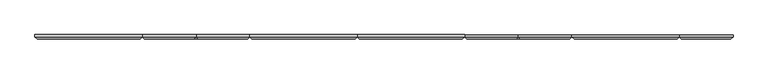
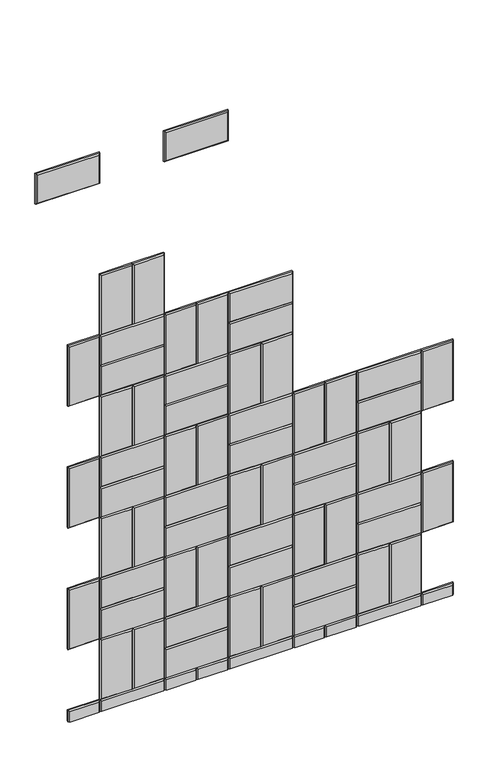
"""IFC4 building model written with IfcOpenShell, lengths in millimetres: proxy geometry, Wall_Wisteria 3.3dm."""

from ifc_helpers import new_model, si_unit, origin, place, context, project, spatial, faceted_brep, source, transform, mapped, element, save


def generic_models_1283f7ee(model_context):
    return source(origin(), model_context, "Body", "Brep", [
        faceted_brep([(0.2096042, 12.0, 2800.0003711), (305.0096042, 12.0, 2800.0003711), (305.0096042, 12.0, 2647.6003711), (0.2096042, 12.0, 2647.6003711), (0.2096042, 6.0, 2800.0003711), (0.2096042, 6.0, 2647.6003711), (305.0096042, 6.0, 2647.6003711), (305.0096042, 6.0, 2800.0003711), (299.0096042, 0.0, 2653.6003711), (299.0096042, 0.0, 2794.0003711), (6.2096042, 0.0, 2794.0003711), (6.2096042, 0.0, 2653.6003711)], [[[0, 1, 2, 3]], [[4, 0, 3, 5]], [[5, 3, 2, 6]], [[6, 2, 1, 7]], [[7, 1, 0, 4]], [[8, 9, 10, 11]], [[4, 5, 11, 10]], [[5, 6, 8, 11]], [[6, 7, 9, 8]], [[7, 4, 10, 9]]]),
        faceted_brep([(609.8092105, 12.0, 2800.0), (914.6092105, 12.0, 2800.0), (914.6092105, 12.0, 2647.6), (609.8092105, 12.0, 2647.6), (609.8092105, 6.0, 2800.0), (609.8092105, 6.0, 2647.6), (914.6092105, 6.0, 2647.6), (914.6092105, 6.0, 2800.0), (908.6092105, 0.0, 2653.6), (908.6092105, 0.0, 2794.0), (615.8092105, 0.0, 2794.0), (615.8092105, 0.0, 2653.6)], [[[0, 1, 2, 3]], [[4, 0, 3, 5]], [[5, 3, 2, 6]], [[6, 2, 1, 7]], [[7, 1, 0, 4]], [[8, 9, 10, 11]], [[4, 5, 11, 10]], [[5, 6, 8, 11]], [[6, 7, 9, 8]], [[7, 4, 10, 9]]]),
        faceted_brep([(152.6096042, 12.0, 0.0), (152.6096042, 12.0, 56.8003711), (305.0096042, 12.0, 56.8003711), (305.0096042, 12.0, 0.0), (305.0096042, 6.0, 0.0), (305.0096042, 6.0, 56.8003711), (152.6096042, 6.0, 56.8003711), (152.6096042, 6.0, 0.0), (158.6096042, 0.0, 0.0), (299.0096042, 0.0, 0.0), (299.0096042, 0.0, 50.8003711), (158.6096042, 0.0, 50.8003711)], [[[0, 1, 2, 3]], [[4, 3, 2, 5]], [[5, 2, 1, 6]], [[0, 7, 6, 1]], [[8, 9, 10, 11]], [[9, 4, 5, 10]], [[5, 6, 11, 10]], [[7, 8, 11, 6]], [[0, 3, 4, 9, 8, 7]]]),
        faceted_brep([(305.0092105, 12.0, 0.0), (305.0092105, 12.0, 56.8), (609.8092105, 12.0, 56.8), (609.8092105, 12.0, 0.0), (305.0092105, 6.0, 0.0), (305.0092105, 6.0, 56.8), (609.8092105, 6.0, 0.0), (609.8092105, 6.0, 56.8), (311.0092105, 0.0, 0.0), (603.8092105, 0.0, 0.0), (603.8092105, 0.0, 50.8), (311.0092105, 0.0, 50.8)], [[[0, 1, 2, 3]], [[0, 4, 5, 1]], [[6, 3, 2, 7]], [[7, 2, 1, 5]], [[8, 9, 10, 11]], [[4, 8, 11, 5]], [[9, 6, 7, 10]], [[7, 5, 11, 10]], [[0, 3, 6, 9, 8, 4]]]),
        faceted_brep([(914.6088167, 12.0, 0.0), (914.6088167, 12.0, 56.7996289), (1219.4088167, 12.0, 56.7996289), (1219.4088167, 12.0, 0.0), (914.6088167, 6.0, 0.0), (914.6088167, 6.0, 56.7996289), (1219.4088167, 6.0, 0.0), (1219.4088167, 6.0, 56.7996289), (920.6088167, 0.0, 0.0), (1213.4088167, 0.0, 0.0), (1213.4088167, 0.0, 50.7996289), (920.6088167, 0.0, 50.7996289)], [[[0, 1, 2, 3]], [[0, 4, 5, 1]], [[6, 3, 2, 7]], [[7, 2, 1, 5]], [[8, 9, 10, 11]], [[4, 8, 11, 5]], [[9, 6, 7, 10]], [[7, 5, 11, 10]], [[0, 3, 6, 9, 8, 4]]]),
        faceted_brep([(762.2092105, 12.0, 0.0), (762.2092105, 12.0, 56.8), (914.6092105, 12.0, 56.8), (914.6092105, 12.0, 0.0), (914.6092105, 6.0, 0.0), (914.6092105, 6.0, 56.8), (762.2092105, 6.0, 56.8), (762.2092105, 6.0, 0.0), (768.2092105, 0.0, 0.0), (908.6092105, 0.0, 0.0), (908.6092105, 0.0, 50.8), (768.2092105, 0.0, 50.8)], [[[0, 1, 2, 3]], [[4, 3, 2, 5]], [[5, 2, 1, 6]], [[0, 7, 6, 1]], [[8, 9, 10, 11]], [[9, 4, 5, 10]], [[5, 6, 11, 10]], [[7, 8, 11, 6]], [[0, 3, 4, 9, 8, 7]]]),
        faceted_brep([(609.8092105, 12.0, 0.0), (609.8092105, 12.0, 56.8), (762.2092105, 12.0, 56.8), (762.2092105, 12.0, 0.0), (762.2092105, 6.0, 0.0), (762.2092105, 6.0, 56.8), (609.8092105, 6.0, 56.8), (609.8092105, 6.0, 0.0), (615.8092105, 0.0, 0.0), (756.2092105, 0.0, 0.0), (756.2092105, 0.0, 50.8), (615.8092105, 0.0, 50.8)], [[[0, 1, 2, 3]], [[4, 3, 2, 5]], [[5, 2, 1, 6]], [[0, 7, 6, 1]], [[8, 9, 10, 11]], [[9, 4, 5, 10]], [[5, 6, 11, 10]], [[7, 8, 11, 6]], [[0, 3, 4, 9, 8, 7]]]),
        faceted_brep([(1524.208423, 12.0, 0.0), (1524.208423, 12.0, 56.7992578), (1829.008423, 12.0, 56.7992578), (1829.008423, 12.0, 0.0), (1524.208423, 6.0, 0.0), (1524.208423, 6.0, 56.7992578), (1829.008423, 6.0, 0.0), (1829.008423, 6.0, 56.7992578), (1530.208423, 0.0, 0.0), (1823.008423, 0.0, 0.0), (1823.008423, 0.0, 50.7992578), (1530.208423, 0.0, 50.7992578)], [[[0, 1, 2, 3]], [[0, 4, 5, 1]], [[6, 3, 2, 7]], [[7, 2, 1, 5]], [[8, 9, 10, 11]], [[4, 8, 11, 5]], [[9, 6, 7, 10]], [[7, 5, 11, 10]], [[0, 3, 6, 9, 8, 4]]]),
        faceted_brep([(1371.8088167, 12.0, 0.0), (1371.8088167, 12.0, 56.7996289), (1524.2088167, 12.0, 56.7996289), (1524.2088167, 12.0, 0.0), (1524.2088167, 6.0, 0.0), (1524.2088167, 6.0, 56.7996289), (1371.8088167, 6.0, 56.7996289), (1371.8088167, 6.0, 0.0), (1377.8088167, 0.0, 0.0), (1518.2088167, 0.0, 0.0), (1518.2088167, 0.0, 50.7996289), (1377.8088167, 0.0, 50.7996289)], [[[0, 1, 2, 3]], [[4, 3, 2, 5]], [[5, 2, 1, 6]], [[0, 7, 6, 1]], [[8, 9, 10, 11]], [[9, 4, 5, 10]], [[5, 6, 11, 10]], [[7, 8, 11, 6]], [[0, 3, 4, 9, 8, 7]]]),
        faceted_brep([(1219.4088167, 12.0, 0.0), (1219.4088167, 12.0, 56.7996289), (1371.8088167, 12.0, 56.7996289), (1371.8088167, 12.0, 0.0), (1371.8088167, 6.0, 0.0), (1371.8088167, 6.0, 56.7996289), (1219.4088167, 6.0, 56.7996289), (1219.4088167, 6.0, 0.0), (1225.4088167, 0.0, 0.0), (1365.8088167, 0.0, 0.0), (1365.8088167, 0.0, 50.7996289), (1225.4088167, 0.0, 50.7996289)], [[[0, 1, 2, 3]], [[4, 3, 2, 5]], [[5, 2, 1, 6]], [[0, 7, 6, 1]], [[8, 9, 10, 11]], [[9, 4, 5, 10]], [[5, 6, 11, 10]], [[7, 8, 11, 6]], [[0, 3, 4, 9, 8, 7]]]),
        faceted_brep([(1829.008423, 12.0, 0.0), (1829.008423, 12.0, 56.7992578), (1981.408423, 12.0, 56.7992578), (1981.408423, 12.0, 0.0), (1981.408423, 6.0, 0.0), (1981.408423, 6.0, 56.7992578), (1829.008423, 6.0, 56.7992578), (1829.008423, 6.0, 0.0), (1835.008423, 0.0, 0.0), (1975.408423, 0.0, 0.0), (1975.408423, 0.0, 50.7992578), (1835.008423, 0.0, 50.7992578)], [[[0, 1, 2, 3]], [[4, 3, 2, 5]], [[5, 2, 1, 6]], [[0, 7, 6, 1]], [[8, 9, 10, 11]], [[9, 4, 5, 10]], [[5, 6, 11, 10]], [[7, 8, 11, 6]], [[0, 3, 4, 9, 8, 7]]]),
        faceted_brep([(305.0096042, 12.0, 56.8003711), (305.0096042, 12.0, 361.6003711), (457.4096042, 12.0, 361.6003711), (457.4096042, 12.0, 56.8003711), (305.0096042, 6.0, 56.8003711), (457.4096042, 6.0, 56.8003711), (457.4096042, 6.0, 361.6003711), (305.0096042, 6.0, 361.6003711), (451.4096042, 0.0, 355.6003711), (311.0096042, 0.0, 355.6003711), (311.0096042, 0.0, 62.8003711), (451.4096042, 0.0, 62.8003711)], [[[0, 1, 2, 3]], [[4, 0, 3, 5]], [[5, 3, 2, 6]], [[6, 2, 1, 7]], [[7, 1, 0, 4]], [[8, 9, 10, 11]], [[4, 5, 11, 10]], [[5, 6, 8, 11]], [[6, 7, 9, 8]], [[7, 4, 10, 9]]]),
        faceted_brep([(457.4096042, 12.0, 56.8003711), (457.4096042, 12.0, 361.6003711), (609.8096042, 12.0, 361.6003711), (609.8096042, 12.0, 56.8003711), (457.4096042, 6.0, 56.8003711), (609.8096042, 6.0, 56.8003711), (609.8096042, 6.0, 361.6003711), (457.4096042, 6.0, 361.6003711), (603.8096042, 0.0, 355.6003711), (463.4096042, 0.0, 355.6003711), (463.4096042, 0.0, 62.8003711), (603.8096042, 0.0, 62.8003711)], [[[0, 1, 2, 3]], [[4, 0, 3, 5]], [[5, 3, 2, 6]], [[6, 2, 1, 7]], [[7, 1, 0, 4]], [[8, 9, 10, 11]], [[4, 5, 11, 10]], [[5, 6, 8, 11]], [[6, 7, 9, 8]], [[7, 4, 10, 9]]]),
        faceted_brep([(609.8092105, 12.0, 209.2), (914.6092105, 12.0, 209.2), (914.6092105, 12.0, 56.8), (609.8092105, 12.0, 56.8), (609.8092105, 6.0, 209.2), (609.8092105, 6.0, 56.8), (914.6092105, 6.0, 56.8), (914.6092105, 6.0, 209.2), (908.6092105, 0.0, 62.8), (908.6092105, 0.0, 203.2), (615.8092105, 0.0, 203.2), (615.8092105, 0.0, 62.8)], [[[0, 1, 2, 3]], [[4, 0, 3, 5]], [[5, 3, 2, 6]], [[6, 2, 1, 7]], [[7, 1, 0, 4]], [[8, 9, 10, 11]], [[4, 5, 11, 10]], [[5, 6, 8, 11]], [[6, 7, 9, 8]], [[7, 4, 10, 9]]]),
        faceted_brep([(609.8092105, 12.0, 361.6), (914.6092105, 12.0, 361.6), (914.6092105, 12.0, 209.2), (609.8092105, 12.0, 209.2), (609.8092105, 6.0, 361.6), (609.8092105, 6.0, 209.2), (914.6092105, 6.0, 209.2), (914.6092105, 6.0, 361.6), (908.6092105, 0.0, 215.2), (908.6092105, 0.0, 355.6), (615.8092105, 0.0, 355.6), (615.8092105, 0.0, 215.2)], [[[0, 1, 2, 3]], [[4, 0, 3, 5]], [[5, 3, 2, 6]], [[6, 2, 1, 7]], [[7, 1, 0, 4]], [[8, 9, 10, 11]], [[4, 5, 11, 10]], [[5, 6, 8, 11]], [[6, 7, 9, 8]], [[7, 4, 10, 9]]]),
        faceted_brep([(1219.4088167, 12.0, 361.5996289), (1524.2088167, 12.0, 361.5996289), (1524.2088167, 12.0, 209.1996289), (1219.4088167, 12.0, 209.1996289), (1219.4088167, 6.0, 361.5996289), (1219.4088167, 6.0, 209.1996289), (1524.2088167, 6.0, 209.1996289), (1524.2088167, 6.0, 361.5996289), (1518.2088167, 0.0, 215.1996289), (1518.2088167, 0.0, 355.5996289), (1225.4088167, 0.0, 355.5996289), (1225.4088167, 0.0, 215.1996289)], [[[0, 1, 2, 3]], [[4, 0, 3, 5]], [[5, 3, 2, 6]], [[6, 2, 1, 7]], [[7, 1, 0, 4]], [[8, 9, 10, 11]], [[4, 5, 11, 10]], [[5, 6, 8, 11]], [[6, 7, 9, 8]], [[7, 4, 10, 9]]]),
        faceted_brep([(1219.4088167, 12.0, 209.1996289), (1524.2088167, 12.0, 209.1996289), (1524.2088167, 12.0, 56.7996289), (1219.4088167, 12.0, 56.7996289), (1219.4088167, 6.0, 209.1996289), (1219.4088167, 6.0, 56.7996289), (1524.2088167, 6.0, 56.7996289), (1524.2088167, 6.0, 209.1996289), (1518.2088167, 0.0, 62.7996289), (1518.2088167, 0.0, 203.1996289), (1225.4088167, 0.0, 203.1996289), (1225.4088167, 0.0, 62.7996289)], [[[0, 1, 2, 3]], [[4, 0, 3, 5]], [[5, 3, 2, 6]], [[6, 2, 1, 7]], [[7, 1, 0, 4]], [[8, 9, 10, 11]], [[4, 5, 11, 10]], [[5, 6, 8, 11]], [[6, 7, 9, 8]], [[7, 4, 10, 9]]]),
        faceted_brep([(1676.6088167, 12.0, 56.7996289), (1676.6088167, 12.0, 361.5996289), (1829.0088167, 12.0, 361.5996289), (1829.0088167, 12.0, 56.7996289), (1676.6088167, 6.0, 56.7996289), (1829.0088167, 6.0, 56.7996289), (1829.0088167, 6.0, 361.5996289), (1676.6088167, 6.0, 361.5996289), (1823.0088167, 0.0, 355.5996289), (1682.6088167, 0.0, 355.5996289), (1682.6088167, 0.0, 62.7996289), (1823.0088167, 0.0, 62.7996289)], [[[0, 1, 2, 3]], [[4, 0, 3, 5]], [[5, 3, 2, 6]], [[6, 2, 1, 7]], [[7, 1, 0, 4]], [[8, 9, 10, 11]], [[4, 5, 11, 10]], [[5, 6, 8, 11]], [[6, 7, 9, 8]], [[7, 4, 10, 9]]]),
        faceted_brep([(1524.2088167, 12.0, 56.7996289), (1524.2088167, 12.0, 361.5996289), (1676.6088167, 12.0, 361.5996289), (1676.6088167, 12.0, 56.7996289), (1524.2088167, 6.0, 56.7996289), (1676.6088167, 6.0, 56.7996289), (1676.6088167, 6.0, 361.5996289), (1524.2088167, 6.0, 361.5996289), (1670.6088167, 0.0, 355.5996289), (1530.2088167, 0.0, 355.5996289), (1530.2088167, 0.0, 62.7996289), (1670.6088167, 0.0, 62.7996289)], [[[0, 1, 2, 3]], [[4, 0, 3, 5]], [[5, 3, 2, 6]], [[6, 2, 1, 7]], [[7, 1, 0, 4]], [[8, 9, 10, 11]], [[4, 5, 11, 10]], [[5, 6, 8, 11]], [[6, 7, 9, 8]], [[7, 4, 10, 9]]]),
        faceted_brep([(1067.0092105, 12.0, 56.8), (1067.0092105, 12.0, 361.6), (1219.4092105, 12.0, 361.6), (1219.4092105, 12.0, 56.8), (1067.0092105, 6.0, 56.8), (1219.4092105, 6.0, 56.8), (1219.4092105, 6.0, 361.6), (1067.0092105, 6.0, 361.6), (1213.4092105, 0.0, 355.6), (1073.0092105, 0.0, 355.6), (1073.0092105, 0.0, 62.8), (1213.4092105, 0.0, 62.8)], [[[0, 1, 2, 3]], [[4, 0, 3, 5]], [[5, 3, 2, 6]], [[6, 2, 1, 7]], [[7, 1, 0, 4]], [[8, 9, 10, 11]], [[4, 5, 11, 10]], [[5, 6, 8, 11]], [[6, 7, 9, 8]], [[7, 4, 10, 9]]]),
        faceted_brep([(914.6092105, 12.0, 56.8), (914.6092105, 12.0, 361.6), (1067.0092105, 12.0, 361.6), (1067.0092105, 12.0, 56.8), (914.6092105, 6.0, 56.8), (1067.0092105, 6.0, 56.8), (1067.0092105, 6.0, 361.6), (914.6092105, 6.0, 361.6), (1061.0092105, 0.0, 355.6), (920.6092105, 0.0, 355.6), (920.6092105, 0.0, 62.8), (1061.0092105, 0.0, 62.8)], [[[0, 1, 2, 3]], [[4, 0, 3, 5]], [[5, 3, 2, 6]], [[6, 2, 1, 7]], [[7, 1, 0, 4]], [[8, 9, 10, 11]], [[4, 5, 11, 10]], [[5, 6, 8, 11]], [[6, 7, 9, 8]], [[7, 4, 10, 9]]]),
        faceted_brep([(152.6096042, 12.0, 361.6003711), (152.6096042, 12.0, 666.4003711), (305.0096042, 12.0, 666.4003711), (305.0096042, 12.0, 361.6003711), (152.6096042, 6.0, 361.6003711), (305.0096042, 6.0, 361.6003711), (305.0096042, 6.0, 666.4003711), (152.6096042, 6.0, 666.4003711), (299.0096042, 0.0, 660.4003711), (158.6096042, 0.0, 660.4003711), (158.6096042, 0.0, 367.6003711), (299.0096042, 0.0, 367.6003711)], [[[0, 1, 2, 3]], [[4, 0, 3, 5]], [[5, 3, 2, 6]], [[6, 2, 1, 7]], [[7, 1, 0, 4]], [[8, 9, 10, 11]], [[4, 5, 11, 10]], [[5, 6, 8, 11]], [[6, 7, 9, 8]], [[7, 4, 10, 9]]]),
        faceted_brep([(305.0092105, 12.0, 514.0), (609.8092105, 12.0, 514.0), (609.8092105, 12.0, 361.6), (305.0092105, 12.0, 361.6), (305.0092105, 6.0, 514.0), (305.0092105, 6.0, 361.6), (609.8092105, 6.0, 361.6), (609.8092105, 6.0, 514.0), (603.8092105, 0.0, 367.6), (603.8092105, 0.0, 508.0), (311.0092105, 0.0, 508.0), (311.0092105, 0.0, 367.6)], [[[0, 1, 2, 3]], [[4, 0, 3, 5]], [[5, 3, 2, 6]], [[6, 2, 1, 7]], [[7, 1, 0, 4]], [[8, 9, 10, 11]], [[4, 5, 11, 10]], [[5, 6, 8, 11]], [[6, 7, 9, 8]], [[7, 4, 10, 9]]]),
        faceted_brep([(305.0092105, 12.0, 666.4), (609.8092105, 12.0, 666.4), (609.8092105, 12.0, 514.0), (305.0092105, 12.0, 514.0), (305.0092105, 6.0, 666.4), (305.0092105, 6.0, 514.0), (609.8092105, 6.0, 514.0), (609.8092105, 6.0, 666.4), (603.8092105, 0.0, 520.0), (603.8092105, 0.0, 660.4), (311.0092105, 0.0, 660.4), (311.0092105, 0.0, 520.0)], [[[0, 1, 2, 3]], [[4, 0, 3, 5]], [[5, 3, 2, 6]], [[6, 2, 1, 7]], [[7, 1, 0, 4]], [[8, 9, 10, 11]], [[4, 5, 11, 10]], [[5, 6, 8, 11]], [[6, 7, 9, 8]], [[7, 4, 10, 9]]]),
        faceted_brep([(914.6088167, 12.0, 666.3996289), (1219.4088167, 12.0, 666.3996289), (1219.4088167, 12.0, 513.9996289), (914.6088167, 12.0, 513.9996289), (914.6088167, 6.0, 666.3996289), (914.6088167, 6.0, 513.9996289), (1219.4088167, 6.0, 513.9996289), (1219.4088167, 6.0, 666.3996289), (1213.4088167, 0.0, 519.9996289), (1213.4088167, 0.0, 660.3996289), (920.6088167, 0.0, 660.3996289), (920.6088167, 0.0, 519.9996289)], [[[0, 1, 2, 3]], [[4, 0, 3, 5]], [[5, 3, 2, 6]], [[6, 2, 1, 7]], [[7, 1, 0, 4]], [[8, 9, 10, 11]], [[4, 5, 11, 10]], [[5, 6, 8, 11]], [[6, 7, 9, 8]], [[7, 4, 10, 9]]]),
        faceted_brep([(914.6088167, 12.0, 513.9996289), (1219.4088167, 12.0, 513.9996289), (1219.4088167, 12.0, 361.5996289), (914.6088167, 12.0, 361.5996289), (914.6088167, 6.0, 513.9996289), (914.6088167, 6.0, 361.5996289), (1219.4088167, 6.0, 361.5996289), (1219.4088167, 6.0, 513.9996289), (1213.4088167, 0.0, 367.5996289), (1213.4088167, 0.0, 507.9996289), (920.6088167, 0.0, 507.9996289), (920.6088167, 0.0, 367.5996289)], [[[0, 1, 2, 3]], [[4, 0, 3, 5]], [[5, 3, 2, 6]], [[6, 2, 1, 7]], [[7, 1, 0, 4]], [[8, 9, 10, 11]], [[4, 5, 11, 10]], [[5, 6, 8, 11]], [[6, 7, 9, 8]], [[7, 4, 10, 9]]]),
        faceted_brep([(762.2092105, 12.0, 361.6), (762.2092105, 12.0, 666.4), (914.6092105, 12.0, 666.4), (914.6092105, 12.0, 361.6), (762.2092105, 6.0, 361.6), (914.6092105, 6.0, 361.6), (914.6092105, 6.0, 666.4), (762.2092105, 6.0, 666.4), (908.6092105, 0.0, 660.4), (768.2092105, 0.0, 660.4), (768.2092105, 0.0, 367.6), (908.6092105, 0.0, 367.6)], [[[0, 1, 2, 3]], [[4, 0, 3, 5]], [[5, 3, 2, 6]], [[6, 2, 1, 7]], [[7, 1, 0, 4]], [[8, 9, 10, 11]], [[4, 5, 11, 10]], [[5, 6, 8, 11]], [[6, 7, 9, 8]], [[7, 4, 10, 9]]]),
        faceted_brep([(609.8092105, 12.0, 361.6), (609.8092105, 12.0, 666.4), (762.2092105, 12.0, 666.4), (762.2092105, 12.0, 361.6), (609.8092105, 6.0, 361.6), (762.2092105, 6.0, 361.6), (762.2092105, 6.0, 666.4), (609.8092105, 6.0, 666.4), (756.2092105, 0.0, 660.4), (615.8092105, 0.0, 660.4), (615.8092105, 0.0, 367.6), (756.2092105, 0.0, 367.6)], [[[0, 1, 2, 3]], [[4, 0, 3, 5]], [[5, 3, 2, 6]], [[6, 2, 1, 7]], [[7, 1, 0, 4]], [[8, 9, 10, 11]], [[4, 5, 11, 10]], [[5, 6, 8, 11]], [[6, 7, 9, 8]], [[7, 4, 10, 9]]]),
        faceted_brep([(1524.208423, 12.0, 666.3992578), (1829.008423, 12.0, 666.3992578), (1829.008423, 12.0, 513.9992578), (1524.208423, 12.0, 513.9992578), (1524.208423, 6.0, 666.3992578), (1524.208423, 6.0, 513.9992578), (1829.008423, 6.0, 513.9992578), (1829.008423, 6.0, 666.3992578), (1823.008423, 0.0, 519.9992578), (1823.008423, 0.0, 660.3992578), (1530.208423, 0.0, 660.3992578), (1530.208423, 0.0, 519.9992578)], [[[0, 1, 2, 3]], [[4, 0, 3, 5]], [[5, 3, 2, 6]], [[6, 2, 1, 7]], [[7, 1, 0, 4]], [[8, 9, 10, 11]], [[4, 5, 11, 10]], [[5, 6, 8, 11]], [[6, 7, 9, 8]], [[7, 4, 10, 9]]]),
        faceted_brep([(1524.208423, 12.0, 513.9992578), (1829.008423, 12.0, 513.9992578), (1829.008423, 12.0, 361.5992578), (1524.208423, 12.0, 361.5992578), (1524.208423, 6.0, 513.9992578), (1524.208423, 6.0, 361.5992578), (1829.008423, 6.0, 361.5992578), (1829.008423, 6.0, 513.9992578), (1823.008423, 0.0, 367.5992578), (1823.008423, 0.0, 507.9992578), (1530.208423, 0.0, 507.9992578), (1530.208423, 0.0, 367.5992578)], [[[0, 1, 2, 3]], [[4, 0, 3, 5]], [[5, 3, 2, 6]], [[6, 2, 1, 7]], [[7, 1, 0, 4]], [[8, 9, 10, 11]], [[4, 5, 11, 10]], [[5, 6, 8, 11]], [[6, 7, 9, 8]], [[7, 4, 10, 9]]]),
        faceted_brep([(1371.8088167, 12.0, 361.5996289), (1371.8088167, 12.0, 666.3996289), (1524.2088167, 12.0, 666.3996289), (1524.2088167, 12.0, 361.5996289), (1371.8088167, 6.0, 361.5996289), (1524.2088167, 6.0, 361.5996289), (1524.2088167, 6.0, 666.3996289), (1371.8088167, 6.0, 666.3996289), (1518.2088167, 0.0, 660.3996289), (1377.8088167, 0.0, 660.3996289), (1377.8088167, 0.0, 367.5996289), (1518.2088167, 0.0, 367.5996289)], [[[0, 1, 2, 3]], [[4, 0, 3, 5]], [[5, 3, 2, 6]], [[6, 2, 1, 7]], [[7, 1, 0, 4]], [[8, 9, 10, 11]], [[4, 5, 11, 10]], [[5, 6, 8, 11]], [[6, 7, 9, 8]], [[7, 4, 10, 9]]]),
        faceted_brep([(1219.4088167, 12.0, 361.5996289), (1219.4088167, 12.0, 666.3996289), (1371.8088167, 12.0, 666.3996289), (1371.8088167, 12.0, 361.5996289), (1219.4088167, 6.0, 361.5996289), (1371.8088167, 6.0, 361.5996289), (1371.8088167, 6.0, 666.3996289), (1219.4088167, 6.0, 666.3996289), (1365.8088167, 0.0, 660.3996289), (1225.4088167, 0.0, 660.3996289), (1225.4088167, 0.0, 367.5996289), (1365.8088167, 0.0, 367.5996289)], [[[0, 1, 2, 3]], [[4, 0, 3, 5]], [[5, 3, 2, 6]], [[6, 2, 1, 7]], [[7, 1, 0, 4]], [[8, 9, 10, 11]], [[4, 5, 11, 10]], [[5, 6, 8, 11]], [[6, 7, 9, 8]], [[7, 4, 10, 9]]]),
        faceted_brep([(1829.008423, 12.0, 361.5992578), (1829.008423, 12.0, 666.3992578), (1981.408423, 12.0, 666.3992578), (1981.408423, 12.0, 361.5992578), (1829.008423, 6.0, 361.5992578), (1981.408423, 6.0, 361.5992578), (1981.408423, 6.0, 666.3992578), (1829.008423, 6.0, 666.3992578), (1975.408423, 0.0, 660.3992578), (1835.008423, 0.0, 660.3992578), (1835.008423, 0.0, 367.5992578), (1975.408423, 0.0, 367.5992578)], [[[0, 1, 2, 3]], [[4, 0, 3, 5]], [[5, 3, 2, 6]], [[6, 2, 1, 7]], [[7, 1, 0, 4]], [[8, 9, 10, 11]], [[4, 5, 11, 10]], [[5, 6, 8, 11]], [[6, 7, 9, 8]], [[7, 4, 10, 9]]]),
        faceted_brep([(305.0096042, 12.0, 666.4003711), (305.0096042, 12.0, 971.2003711), (457.4096042, 12.0, 971.2003711), (457.4096042, 12.0, 666.4003711), (305.0096042, 6.0, 666.4003711), (457.4096042, 6.0, 666.4003711), (457.4096042, 6.0, 971.2003711), (305.0096042, 6.0, 971.2003711), (451.4096042, 0.0, 965.2003711), (311.0096042, 0.0, 965.2003711), (311.0096042, 0.0, 672.4003711), (451.4096042, 0.0, 672.4003711)], [[[0, 1, 2, 3]], [[4, 0, 3, 5]], [[5, 3, 2, 6]], [[6, 2, 1, 7]], [[7, 1, 0, 4]], [[8, 9, 10, 11]], [[4, 5, 11, 10]], [[5, 6, 8, 11]], [[6, 7, 9, 8]], [[7, 4, 10, 9]]]),
        faceted_brep([(457.4096042, 12.0, 666.4003711), (457.4096042, 12.0, 971.2003711), (609.8096042, 12.0, 971.2003711), (609.8096042, 12.0, 666.4003711), (457.4096042, 6.0, 666.4003711), (609.8096042, 6.0, 666.4003711), (609.8096042, 6.0, 971.2003711), (457.4096042, 6.0, 971.2003711), (603.8096042, 0.0, 965.2003711), (463.4096042, 0.0, 965.2003711), (463.4096042, 0.0, 672.4003711), (603.8096042, 0.0, 672.4003711)], [[[0, 1, 2, 3]], [[4, 0, 3, 5]], [[5, 3, 2, 6]], [[6, 2, 1, 7]], [[7, 1, 0, 4]], [[8, 9, 10, 11]], [[4, 5, 11, 10]], [[5, 6, 8, 11]], [[6, 7, 9, 8]], [[7, 4, 10, 9]]]),
        faceted_brep([(609.8092105, 12.0, 818.8), (914.6092105, 12.0, 818.8), (914.6092105, 12.0, 666.4), (609.8092105, 12.0, 666.4), (609.8092105, 6.0, 818.8), (609.8092105, 6.0, 666.4), (914.6092105, 6.0, 666.4), (914.6092105, 6.0, 818.8), (908.6092105, 0.0, 672.4), (908.6092105, 0.0, 812.8), (615.8092105, 0.0, 812.8), (615.8092105, 0.0, 672.4)], [[[0, 1, 2, 3]], [[4, 0, 3, 5]], [[5, 3, 2, 6]], [[6, 2, 1, 7]], [[7, 1, 0, 4]], [[8, 9, 10, 11]], [[4, 5, 11, 10]], [[5, 6, 8, 11]], [[6, 7, 9, 8]], [[7, 4, 10, 9]]]),
        faceted_brep([(609.8092105, 12.0, 971.2), (914.6092105, 12.0, 971.2), (914.6092105, 12.0, 818.8), (609.8092105, 12.0, 818.8), (609.8092105, 6.0, 971.2), (609.8092105, 6.0, 818.8), (914.6092105, 6.0, 818.8), (914.6092105, 6.0, 971.2), (908.6092105, 0.0, 824.8), (908.6092105, 0.0, 965.2), (615.8092105, 0.0, 965.2), (615.8092105, 0.0, 824.8)], [[[0, 1, 2, 3]], [[4, 0, 3, 5]], [[5, 3, 2, 6]], [[6, 2, 1, 7]], [[7, 1, 0, 4]], [[8, 9, 10, 11]], [[4, 5, 11, 10]], [[5, 6, 8, 11]], [[6, 7, 9, 8]], [[7, 4, 10, 9]]]),
        faceted_brep([(1219.4088167, 12.0, 971.1996289), (1524.2088167, 12.0, 971.1996289), (1524.2088167, 12.0, 818.7996289), (1219.4088167, 12.0, 818.7996289), (1219.4088167, 6.0, 971.1996289), (1219.4088167, 6.0, 818.7996289), (1524.2088167, 6.0, 818.7996289), (1524.2088167, 6.0, 971.1996289), (1518.2088167, 0.0, 824.7996289), (1518.2088167, 0.0, 965.1996289), (1225.4088167, 0.0, 965.1996289), (1225.4088167, 0.0, 824.7996289)], [[[0, 1, 2, 3]], [[4, 0, 3, 5]], [[5, 3, 2, 6]], [[6, 2, 1, 7]], [[7, 1, 0, 4]], [[8, 9, 10, 11]], [[4, 5, 11, 10]], [[5, 6, 8, 11]], [[6, 7, 9, 8]], [[7, 4, 10, 9]]]),
        faceted_brep([(1219.4088167, 12.0, 818.7996289), (1524.2088167, 12.0, 818.7996289), (1524.2088167, 12.0, 666.3996289), (1219.4088167, 12.0, 666.3996289), (1219.4088167, 6.0, 818.7996289), (1219.4088167, 6.0, 666.3996289), (1524.2088167, 6.0, 666.3996289), (1524.2088167, 6.0, 818.7996289), (1518.2088167, 0.0, 672.3996289), (1518.2088167, 0.0, 812.7996289), (1225.4088167, 0.0, 812.7996289), (1225.4088167, 0.0, 672.3996289)], [[[0, 1, 2, 3]], [[4, 0, 3, 5]], [[5, 3, 2, 6]], [[6, 2, 1, 7]], [[7, 1, 0, 4]], [[8, 9, 10, 11]], [[4, 5, 11, 10]], [[5, 6, 8, 11]], [[6, 7, 9, 8]], [[7, 4, 10, 9]]]),
        faceted_brep([(1676.6088167, 12.0, 666.3996289), (1676.6088167, 12.0, 971.1996289), (1829.0088167, 12.0, 971.1996289), (1829.0088167, 12.0, 666.3996289), (1676.6088167, 6.0, 666.3996289), (1829.0088167, 6.0, 666.3996289), (1829.0088167, 6.0, 971.1996289), (1676.6088167, 6.0, 971.1996289), (1823.0088167, 0.0, 965.1996289), (1682.6088167, 0.0, 965.1996289), (1682.6088167, 0.0, 672.3996289), (1823.0088167, 0.0, 672.3996289)], [[[0, 1, 2, 3]], [[4, 0, 3, 5]], [[5, 3, 2, 6]], [[6, 2, 1, 7]], [[7, 1, 0, 4]], [[8, 9, 10, 11]], [[4, 5, 11, 10]], [[5, 6, 8, 11]], [[6, 7, 9, 8]], [[7, 4, 10, 9]]]),
        faceted_brep([(1524.2088167, 12.0, 666.3996289), (1524.2088167, 12.0, 971.1996289), (1676.6088167, 12.0, 971.1996289), (1676.6088167, 12.0, 666.3996289), (1524.2088167, 6.0, 666.3996289), (1676.6088167, 6.0, 666.3996289), (1676.6088167, 6.0, 971.1996289), (1524.2088167, 6.0, 971.1996289), (1670.6088167, 0.0, 965.1996289), (1530.2088167, 0.0, 965.1996289), (1530.2088167, 0.0, 672.3996289), (1670.6088167, 0.0, 672.3996289)], [[[0, 1, 2, 3]], [[4, 0, 3, 5]], [[5, 3, 2, 6]], [[6, 2, 1, 7]], [[7, 1, 0, 4]], [[8, 9, 10, 11]], [[4, 5, 11, 10]], [[5, 6, 8, 11]], [[6, 7, 9, 8]], [[7, 4, 10, 9]]]),
        faceted_brep([(1067.0092105, 12.0, 666.4), (1067.0092105, 12.0, 971.2), (1219.4092105, 12.0, 971.2), (1219.4092105, 12.0, 666.4), (1067.0092105, 6.0, 666.4), (1219.4092105, 6.0, 666.4), (1219.4092105, 6.0, 971.2), (1067.0092105, 6.0, 971.2), (1213.4092105, 0.0, 965.2), (1073.0092105, 0.0, 965.2), (1073.0092105, 0.0, 672.4), (1213.4092105, 0.0, 672.4)], [[[0, 1, 2, 3]], [[4, 0, 3, 5]], [[5, 3, 2, 6]], [[6, 2, 1, 7]], [[7, 1, 0, 4]], [[8, 9, 10, 11]], [[4, 5, 11, 10]], [[5, 6, 8, 11]], [[6, 7, 9, 8]], [[7, 4, 10, 9]]]),
        faceted_brep([(914.6092105, 12.0, 666.4), (914.6092105, 12.0, 971.2), (1067.0092105, 12.0, 971.2), (1067.0092105, 12.0, 666.4), (914.6092105, 6.0, 666.4), (1067.0092105, 6.0, 666.4), (1067.0092105, 6.0, 971.2), (914.6092105, 6.0, 971.2), (1061.0092105, 0.0, 965.2), (920.6092105, 0.0, 965.2), (920.6092105, 0.0, 672.4), (1061.0092105, 0.0, 672.4)], [[[0, 1, 2, 3]], [[4, 0, 3, 5]], [[5, 3, 2, 6]], [[6, 2, 1, 7]], [[7, 1, 0, 4]], [[8, 9, 10, 11]], [[4, 5, 11, 10]], [[5, 6, 8, 11]], [[6, 7, 9, 8]], [[7, 4, 10, 9]]]),
        faceted_brep([(152.6096042, 12.0, 971.2003711), (152.6096042, 12.0, 1276.0003711), (305.0096042, 12.0, 1276.0003711), (305.0096042, 12.0, 971.2003711), (152.6096042, 6.0, 971.2003711), (305.0096042, 6.0, 971.2003711), (305.0096042, 6.0, 1276.0003711), (152.6096042, 6.0, 1276.0003711), (299.0096042, 0.0, 1270.0003711), (158.6096042, 0.0, 1270.0003711), (158.6096042, 0.0, 977.2003711), (299.0096042, 0.0, 977.2003711)], [[[0, 1, 2, 3]], [[4, 0, 3, 5]], [[5, 3, 2, 6]], [[6, 2, 1, 7]], [[7, 1, 0, 4]], [[8, 9, 10, 11]], [[4, 5, 11, 10]], [[5, 6, 8, 11]], [[6, 7, 9, 8]], [[7, 4, 10, 9]]]),
        faceted_brep([(305.0092105, 12.0, 1123.6), (609.8092105, 12.0, 1123.6), (609.8092105, 12.0, 971.2), (305.0092105, 12.0, 971.2), (305.0092105, 6.0, 1123.6), (305.0092105, 6.0, 971.2), (609.8092105, 6.0, 971.2), (609.8092105, 6.0, 1123.6), (603.8092105, 0.0, 977.2), (603.8092105, 0.0, 1117.6), (311.0092105, 0.0, 1117.6), (311.0092105, 0.0, 977.2)], [[[0, 1, 2, 3]], [[4, 0, 3, 5]], [[5, 3, 2, 6]], [[6, 2, 1, 7]], [[7, 1, 0, 4]], [[8, 9, 10, 11]], [[4, 5, 11, 10]], [[5, 6, 8, 11]], [[6, 7, 9, 8]], [[7, 4, 10, 9]]]),
        faceted_brep([(305.0092105, 12.0, 1276.0), (609.8092105, 12.0, 1276.0), (609.8092105, 12.0, 1123.6), (305.0092105, 12.0, 1123.6), (305.0092105, 6.0, 1276.0), (305.0092105, 6.0, 1123.6), (609.8092105, 6.0, 1123.6), (609.8092105, 6.0, 1276.0), (603.8092105, 0.0, 1129.6), (603.8092105, 0.0, 1270.0), (311.0092105, 0.0, 1270.0), (311.0092105, 0.0, 1129.6)], [[[0, 1, 2, 3]], [[4, 0, 3, 5]], [[5, 3, 2, 6]], [[6, 2, 1, 7]], [[7, 1, 0, 4]], [[8, 9, 10, 11]], [[4, 5, 11, 10]], [[5, 6, 8, 11]], [[6, 7, 9, 8]], [[7, 4, 10, 9]]]),
        faceted_brep([(914.6088167, 12.0, 1275.9996289), (1219.4088167, 12.0, 1275.9996289), (1219.4088167, 12.0, 1123.5996289), (914.6088167, 12.0, 1123.5996289), (914.6088167, 6.0, 1275.9996289), (914.6088167, 6.0, 1123.5996289), (1219.4088167, 6.0, 1123.5996289), (1219.4088167, 6.0, 1275.9996289), (1213.4088167, 0.0, 1129.5996289), (1213.4088167, 0.0, 1269.9996289), (920.6088167, 0.0, 1269.9996289), (920.6088167, 0.0, 1129.5996289)], [[[0, 1, 2, 3]], [[4, 0, 3, 5]], [[5, 3, 2, 6]], [[6, 2, 1, 7]], [[7, 1, 0, 4]], [[8, 9, 10, 11]], [[4, 5, 11, 10]], [[5, 6, 8, 11]], [[6, 7, 9, 8]], [[7, 4, 10, 9]]]),
        faceted_brep([(914.6088167, 12.0, 1123.5996289), (1219.4088167, 12.0, 1123.5996289), (1219.4088167, 12.0, 971.1996289), (914.6088167, 12.0, 971.1996289), (914.6088167, 6.0, 1123.5996289), (914.6088167, 6.0, 971.1996289), (1219.4088167, 6.0, 971.1996289), (1219.4088167, 6.0, 1123.5996289), (1213.4088167, 0.0, 977.1996289), (1213.4088167, 0.0, 1117.5996289), (920.6088167, 0.0, 1117.5996289), (920.6088167, 0.0, 977.1996289)], [[[0, 1, 2, 3]], [[4, 0, 3, 5]], [[5, 3, 2, 6]], [[6, 2, 1, 7]], [[7, 1, 0, 4]], [[8, 9, 10, 11]], [[4, 5, 11, 10]], [[5, 6, 8, 11]], [[6, 7, 9, 8]], [[7, 4, 10, 9]]]),
        faceted_brep([(762.2092105, 12.0, 971.2), (762.2092105, 12.0, 1276.0), (914.6092105, 12.0, 1276.0), (914.6092105, 12.0, 971.2), (762.2092105, 6.0, 971.2), (914.6092105, 6.0, 971.2), (914.6092105, 6.0, 1276.0), (762.2092105, 6.0, 1276.0), (908.6092105, 0.0, 1270.0), (768.2092105, 0.0, 1270.0), (768.2092105, 0.0, 977.2), (908.6092105, 0.0, 977.2)], [[[0, 1, 2, 3]], [[4, 0, 3, 5]], [[5, 3, 2, 6]], [[6, 2, 1, 7]], [[7, 1, 0, 4]], [[8, 9, 10, 11]], [[4, 5, 11, 10]], [[5, 6, 8, 11]], [[6, 7, 9, 8]], [[7, 4, 10, 9]]]),
        faceted_brep([(609.8092105, 12.0, 971.2), (609.8092105, 12.0, 1276.0), (762.2092105, 12.0, 1276.0), (762.2092105, 12.0, 971.2), (609.8092105, 6.0, 971.2), (762.2092105, 6.0, 971.2), (762.2092105, 6.0, 1276.0), (609.8092105, 6.0, 1276.0), (756.2092105, 0.0, 1270.0), (615.8092105, 0.0, 1270.0), (615.8092105, 0.0, 977.2), (756.2092105, 0.0, 977.2)], [[[0, 1, 2, 3]], [[4, 0, 3, 5]], [[5, 3, 2, 6]], [[6, 2, 1, 7]], [[7, 1, 0, 4]], [[8, 9, 10, 11]], [[4, 5, 11, 10]], [[5, 6, 8, 11]], [[6, 7, 9, 8]], [[7, 4, 10, 9]]]),
        faceted_brep([(1524.208423, 12.0, 1275.9992578), (1829.008423, 12.0, 1275.9992578), (1829.008423, 12.0, 1123.5992578), (1524.208423, 12.0, 1123.5992578), (1524.208423, 6.0, 1275.9992578), (1524.208423, 6.0, 1123.5992578), (1829.008423, 6.0, 1123.5992578), (1829.008423, 6.0, 1275.9992578), (1823.008423, 0.0, 1129.5992578), (1823.008423, 0.0, 1269.9992578), (1530.208423, 0.0, 1269.9992578), (1530.208423, 0.0, 1129.5992578)], [[[0, 1, 2, 3]], [[4, 0, 3, 5]], [[5, 3, 2, 6]], [[6, 2, 1, 7]], [[7, 1, 0, 4]], [[8, 9, 10, 11]], [[4, 5, 11, 10]], [[5, 6, 8, 11]], [[6, 7, 9, 8]], [[7, 4, 10, 9]]]),
        faceted_brep([(1524.208423, 12.0, 1123.5992578), (1829.008423, 12.0, 1123.5992578), (1829.008423, 12.0, 971.1992578), (1524.208423, 12.0, 971.1992578), (1524.208423, 6.0, 1123.5992578), (1524.208423, 6.0, 971.1992578), (1829.008423, 6.0, 971.1992578), (1829.008423, 6.0, 1123.5992578), (1823.008423, 0.0, 977.1992578), (1823.008423, 0.0, 1117.5992578), (1530.208423, 0.0, 1117.5992578), (1530.208423, 0.0, 977.1992578)], [[[0, 1, 2, 3]], [[4, 0, 3, 5]], [[5, 3, 2, 6]], [[6, 2, 1, 7]], [[7, 1, 0, 4]], [[8, 9, 10, 11]], [[4, 5, 11, 10]], [[5, 6, 8, 11]], [[6, 7, 9, 8]], [[7, 4, 10, 9]]]),
        faceted_brep([(1371.8088167, 12.0, 971.1996289), (1371.8088167, 12.0, 1275.9996289), (1524.2088167, 12.0, 1275.9996289), (1524.2088167, 12.0, 971.1996289), (1371.8088167, 6.0, 971.1996289), (1524.2088167, 6.0, 971.1996289), (1524.2088167, 6.0, 1275.9996289), (1371.8088167, 6.0, 1275.9996289), (1518.2088167, 0.0, 1269.9996289), (1377.8088167, 0.0, 1269.9996289), (1377.8088167, 0.0, 977.1996289), (1518.2088167, 0.0, 977.1996289)], [[[0, 1, 2, 3]], [[4, 0, 3, 5]], [[5, 3, 2, 6]], [[6, 2, 1, 7]], [[7, 1, 0, 4]], [[8, 9, 10, 11]], [[4, 5, 11, 10]], [[5, 6, 8, 11]], [[6, 7, 9, 8]], [[7, 4, 10, 9]]]),
        faceted_brep([(1219.4088167, 12.0, 971.1996289), (1219.4088167, 12.0, 1275.9996289), (1371.8088167, 12.0, 1275.9996289), (1371.8088167, 12.0, 971.1996289), (1219.4088167, 6.0, 971.1996289), (1371.8088167, 6.0, 971.1996289), (1371.8088167, 6.0, 1275.9996289), (1219.4088167, 6.0, 1275.9996289), (1365.8088167, 0.0, 1269.9996289), (1225.4088167, 0.0, 1269.9996289), (1225.4088167, 0.0, 977.1996289), (1365.8088167, 0.0, 977.1996289)], [[[0, 1, 2, 3]], [[4, 0, 3, 5]], [[5, 3, 2, 6]], [[6, 2, 1, 7]], [[7, 1, 0, 4]], [[8, 9, 10, 11]], [[4, 5, 11, 10]], [[5, 6, 8, 11]], [[6, 7, 9, 8]], [[7, 4, 10, 9]]]),
        faceted_brep([(1829.008423, 12.0, 971.1992578), (1829.008423, 12.0, 1275.9992578), (1981.408423, 12.0, 1275.9992578), (1981.408423, 12.0, 971.1992578), (1829.008423, 6.0, 971.1992578), (1981.408423, 6.0, 971.1992578), (1981.408423, 6.0, 1275.9992578), (1829.008423, 6.0, 1275.9992578), (1975.408423, 0.0, 1269.9992578), (1835.008423, 0.0, 1269.9992578), (1835.008423, 0.0, 977.1992578), (1975.408423, 0.0, 977.1992578)], [[[0, 1, 2, 3]], [[4, 0, 3, 5]], [[5, 3, 2, 6]], [[6, 2, 1, 7]], [[7, 1, 0, 4]], [[8, 9, 10, 11]], [[4, 5, 11, 10]], [[5, 6, 8, 11]], [[6, 7, 9, 8]], [[7, 4, 10, 9]]]),
        faceted_brep([(305.0096042, 12.0, 1276.0003711), (305.0096042, 12.0, 1580.8003711), (457.4096042, 12.0, 1580.8003711), (457.4096042, 12.0, 1276.0003711), (305.0096042, 6.0, 1276.0003711), (457.4096042, 6.0, 1276.0003711), (457.4096042, 6.0, 1580.8003711), (305.0096042, 6.0, 1580.8003711), (451.4096042, 0.0, 1574.8003711), (311.0096042, 0.0, 1574.8003711), (311.0096042, 0.0, 1282.0003711), (451.4096042, 0.0, 1282.0003711)], [[[0, 1, 2, 3]], [[4, 0, 3, 5]], [[5, 3, 2, 6]], [[6, 2, 1, 7]], [[7, 1, 0, 4]], [[8, 9, 10, 11]], [[4, 5, 11, 10]], [[5, 6, 8, 11]], [[6, 7, 9, 8]], [[7, 4, 10, 9]]]),
        faceted_brep([(457.4096042, 12.0, 1276.0003711), (457.4096042, 12.0, 1580.8003711), (609.8096042, 12.0, 1580.8003711), (609.8096042, 12.0, 1276.0003711), (457.4096042, 6.0, 1276.0003711), (609.8096042, 6.0, 1276.0003711), (609.8096042, 6.0, 1580.8003711), (457.4096042, 6.0, 1580.8003711), (603.8096042, 0.0, 1574.8003711), (463.4096042, 0.0, 1574.8003711), (463.4096042, 0.0, 1282.0003711), (603.8096042, 0.0, 1282.0003711)], [[[0, 1, 2, 3]], [[4, 0, 3, 5]], [[5, 3, 2, 6]], [[6, 2, 1, 7]], [[7, 1, 0, 4]], [[8, 9, 10, 11]], [[4, 5, 11, 10]], [[5, 6, 8, 11]], [[6, 7, 9, 8]], [[7, 4, 10, 9]]]),
        faceted_brep([(609.8092105, 12.0, 1428.4), (914.6092105, 12.0, 1428.4), (914.6092105, 12.0, 1276.0), (609.8092105, 12.0, 1276.0), (609.8092105, 6.0, 1428.4), (609.8092105, 6.0, 1276.0), (914.6092105, 6.0, 1276.0), (914.6092105, 6.0, 1428.4), (908.6092105, 0.0, 1282.0), (908.6092105, 0.0, 1422.4), (615.8092105, 0.0, 1422.4), (615.8092105, 0.0, 1282.0)], [[[0, 1, 2, 3]], [[4, 0, 3, 5]], [[5, 3, 2, 6]], [[6, 2, 1, 7]], [[7, 1, 0, 4]], [[8, 9, 10, 11]], [[4, 5, 11, 10]], [[5, 6, 8, 11]], [[6, 7, 9, 8]], [[7, 4, 10, 9]]]),
        faceted_brep([(609.8092105, 12.0, 1580.8), (914.6092105, 12.0, 1580.8), (914.6092105, 12.0, 1428.4), (609.8092105, 12.0, 1428.4), (609.8092105, 6.0, 1580.8), (609.8092105, 6.0, 1428.4), (914.6092105, 6.0, 1428.4), (914.6092105, 6.0, 1580.8), (908.6092105, 0.0, 1434.4), (908.6092105, 0.0, 1574.8), (615.8092105, 0.0, 1574.8), (615.8092105, 0.0, 1434.4)], [[[0, 1, 2, 3]], [[4, 0, 3, 5]], [[5, 3, 2, 6]], [[6, 2, 1, 7]], [[7, 1, 0, 4]], [[8, 9, 10, 11]], [[4, 5, 11, 10]], [[5, 6, 8, 11]], [[6, 7, 9, 8]], [[7, 4, 10, 9]]]),
        faceted_brep([(1067.0092105, 12.0, 1276.0), (1067.0092105, 12.0, 1580.8), (1219.4092105, 12.0, 1580.8), (1219.4092105, 12.0, 1276.0), (1067.0092105, 6.0, 1276.0), (1219.4092105, 6.0, 1276.0), (1219.4092105, 6.0, 1580.8), (1067.0092105, 6.0, 1580.8), (1213.4092105, 0.0, 1574.8), (1073.0092105, 0.0, 1574.8), (1073.0092105, 0.0, 1282.0), (1213.4092105, 0.0, 1282.0)], [[[0, 1, 2, 3]], [[4, 0, 3, 5]], [[5, 3, 2, 6]], [[6, 2, 1, 7]], [[7, 1, 0, 4]], [[8, 9, 10, 11]], [[4, 5, 11, 10]], [[5, 6, 8, 11]], [[6, 7, 9, 8]], [[7, 4, 10, 9]]]),
        faceted_brep([(914.6092105, 12.0, 1276.0), (914.6092105, 12.0, 1580.8), (1067.0092105, 12.0, 1580.8), (1067.0092105, 12.0, 1276.0), (914.6092105, 6.0, 1276.0), (1067.0092105, 6.0, 1276.0), (1067.0092105, 6.0, 1580.8), (914.6092105, 6.0, 1580.8), (1061.0092105, 0.0, 1574.8), (920.6092105, 0.0, 1574.8), (920.6092105, 0.0, 1282.0), (1061.0092105, 0.0, 1282.0)], [[[0, 1, 2, 3]], [[4, 0, 3, 5]], [[5, 3, 2, 6]], [[6, 2, 1, 7]], [[7, 1, 0, 4]], [[8, 9, 10, 11]], [[4, 5, 11, 10]], [[5, 6, 8, 11]], [[6, 7, 9, 8]], [[7, 4, 10, 9]]]),
        faceted_brep([(152.6096042, 12.0, 1580.8003711), (152.6096042, 12.0, 1885.6003711), (305.0096042, 12.0, 1885.6003711), (305.0096042, 12.0, 1580.8003711), (152.6096042, 6.0, 1580.8003711), (305.0096042, 6.0, 1580.8003711), (305.0096042, 6.0, 1885.6003711), (152.6096042, 6.0, 1885.6003711), (299.0096042, 0.0, 1879.6003711), (158.6096042, 0.0, 1879.6003711), (158.6096042, 0.0, 1586.8003711), (299.0096042, 0.0, 1586.8003711)], [[[0, 1, 2, 3]], [[4, 0, 3, 5]], [[5, 3, 2, 6]], [[6, 2, 1, 7]], [[7, 1, 0, 4]], [[8, 9, 10, 11]], [[4, 5, 11, 10]], [[5, 6, 8, 11]], [[6, 7, 9, 8]], [[7, 4, 10, 9]]]),
        faceted_brep([(305.0092105, 12.0, 1733.2), (609.8092105, 12.0, 1733.2), (609.8092105, 12.0, 1580.8), (305.0092105, 12.0, 1580.8), (305.0092105, 6.0, 1733.2), (305.0092105, 6.0, 1580.8), (609.8092105, 6.0, 1580.8), (609.8092105, 6.0, 1733.2), (603.8092105, 0.0, 1586.8), (603.8092105, 0.0, 1727.2), (311.0092105, 0.0, 1727.2), (311.0092105, 0.0, 1586.8)], [[[0, 1, 2, 3]], [[4, 0, 3, 5]], [[5, 3, 2, 6]], [[6, 2, 1, 7]], [[7, 1, 0, 4]], [[8, 9, 10, 11]], [[4, 5, 11, 10]], [[5, 6, 8, 11]], [[6, 7, 9, 8]], [[7, 4, 10, 9]]]),
        faceted_brep([(305.0092105, 12.0, 1885.6), (609.8092105, 12.0, 1885.6), (609.8092105, 12.0, 1733.2), (305.0092105, 12.0, 1733.2), (305.0092105, 6.0, 1885.6), (305.0092105, 6.0, 1733.2), (609.8092105, 6.0, 1733.2), (609.8092105, 6.0, 1885.6), (603.8092105, 0.0, 1739.2), (603.8092105, 0.0, 1879.6), (311.0092105, 0.0, 1879.6), (311.0092105, 0.0, 1739.2)], [[[0, 1, 2, 3]], [[4, 0, 3, 5]], [[5, 3, 2, 6]], [[6, 2, 1, 7]], [[7, 1, 0, 4]], [[8, 9, 10, 11]], [[4, 5, 11, 10]], [[5, 6, 8, 11]], [[6, 7, 9, 8]], [[7, 4, 10, 9]]]),
        faceted_brep([(914.6088167, 12.0, 1885.5996289), (1219.4088167, 12.0, 1885.5996289), (1219.4088167, 12.0, 1733.1996289), (914.6088167, 12.0, 1733.1996289), (914.6088167, 6.0, 1885.5996289), (914.6088167, 6.0, 1733.1996289), (1219.4088167, 6.0, 1733.1996289), (1219.4088167, 6.0, 1885.5996289), (1213.4088167, 0.0, 1739.1996289), (1213.4088167, 0.0, 1879.5996289), (920.6088167, 0.0, 1879.5996289), (920.6088167, 0.0, 1739.1996289)], [[[0, 1, 2, 3]], [[4, 0, 3, 5]], [[5, 3, 2, 6]], [[6, 2, 1, 7]], [[7, 1, 0, 4]], [[8, 9, 10, 11]], [[4, 5, 11, 10]], [[5, 6, 8, 11]], [[6, 7, 9, 8]], [[7, 4, 10, 9]]]),
        faceted_brep([(914.6088167, 12.0, 1733.1996289), (1219.4088167, 12.0, 1733.1996289), (1219.4088167, 12.0, 1580.7996289), (914.6088167, 12.0, 1580.7996289), (914.6088167, 6.0, 1733.1996289), (914.6088167, 6.0, 1580.7996289), (1219.4088167, 6.0, 1580.7996289), (1219.4088167, 6.0, 1733.1996289), (1213.4088167, 0.0, 1586.7996289), (1213.4088167, 0.0, 1727.1996289), (920.6088167, 0.0, 1727.1996289), (920.6088167, 0.0, 1586.7996289)], [[[0, 1, 2, 3]], [[4, 0, 3, 5]], [[5, 3, 2, 6]], [[6, 2, 1, 7]], [[7, 1, 0, 4]], [[8, 9, 10, 11]], [[4, 5, 11, 10]], [[5, 6, 8, 11]], [[6, 7, 9, 8]], [[7, 4, 10, 9]]]),
        faceted_brep([(762.2092105, 12.0, 1580.8), (762.2092105, 12.0, 1885.6), (914.6092105, 12.0, 1885.6), (914.6092105, 12.0, 1580.8), (762.2092105, 6.0, 1580.8), (914.6092105, 6.0, 1580.8), (914.6092105, 6.0, 1885.6), (762.2092105, 6.0, 1885.6), (908.6092105, 0.0, 1879.6), (768.2092105, 0.0, 1879.6), (768.2092105, 0.0, 1586.8), (908.6092105, 0.0, 1586.8)], [[[0, 1, 2, 3]], [[4, 0, 3, 5]], [[5, 3, 2, 6]], [[6, 2, 1, 7]], [[7, 1, 0, 4]], [[8, 9, 10, 11]], [[4, 5, 11, 10]], [[5, 6, 8, 11]], [[6, 7, 9, 8]], [[7, 4, 10, 9]]]),
        faceted_brep([(609.8092105, 12.0, 1580.8), (609.8092105, 12.0, 1885.6), (762.2092105, 12.0, 1885.6), (762.2092105, 12.0, 1580.8), (609.8092105, 6.0, 1580.8), (762.2092105, 6.0, 1580.8), (762.2092105, 6.0, 1885.6), (609.8092105, 6.0, 1885.6), (756.2092105, 0.0, 1879.6), (615.8092105, 0.0, 1879.6), (615.8092105, 0.0, 1586.8), (756.2092105, 0.0, 1586.8)], [[[0, 1, 2, 3]], [[4, 0, 3, 5]], [[5, 3, 2, 6]], [[6, 2, 1, 7]], [[7, 1, 0, 4]], [[8, 9, 10, 11]], [[4, 5, 11, 10]], [[5, 6, 8, 11]], [[6, 7, 9, 8]], [[7, 4, 10, 9]]]),
        faceted_brep([(305.0096042, 12.0, 1885.6003711), (305.0096042, 12.0, 2190.4003711), (457.4096042, 12.0, 2190.4003711), (457.4096042, 12.0, 1885.6003711), (305.0096042, 6.0, 1885.6003711), (457.4096042, 6.0, 1885.6003711), (457.4096042, 6.0, 2190.4003711), (305.0096042, 6.0, 2190.4003711), (451.4096042, 0.0, 2184.4003711), (311.0096042, 0.0, 2184.4003711), (311.0096042, 0.0, 1891.6003711), (451.4096042, 0.0, 1891.6003711)], [[[0, 1, 2, 3]], [[4, 0, 3, 5]], [[5, 3, 2, 6]], [[6, 2, 1, 7]], [[7, 1, 0, 4]], [[8, 9, 10, 11]], [[4, 5, 11, 10]], [[5, 6, 8, 11]], [[6, 7, 9, 8]], [[7, 4, 10, 9]]]),
        faceted_brep([(457.4096042, 12.0, 1885.6003711), (457.4096042, 12.0, 2190.4003711), (609.8096042, 12.0, 2190.4003711), (609.8096042, 12.0, 1885.6003711), (457.4096042, 6.0, 1885.6003711), (609.8096042, 6.0, 1885.6003711), (609.8096042, 6.0, 2190.4003711), (457.4096042, 6.0, 2190.4003711), (603.8096042, 0.0, 2184.4003711), (463.4096042, 0.0, 2184.4003711), (463.4096042, 0.0, 1891.6003711), (603.8096042, 0.0, 1891.6003711)], [[[0, 1, 2, 3]], [[4, 0, 3, 5]], [[5, 3, 2, 6]], [[6, 2, 1, 7]], [[7, 1, 0, 4]], [[8, 9, 10, 11]], [[4, 5, 11, 10]], [[5, 6, 8, 11]], [[6, 7, 9, 8]], [[7, 4, 10, 9]]]),
    ])


if __name__ == "__main__":
    model = new_model("IFC4")
    model_context = context("Model", 3, world=origin())
    ifc_project = project(units=[si_unit("LENGTHUNIT", "METRE", prefix="MILLI")], contexts=[model_context])
    site = spatial("IfcSite", under=ifc_project)
    building = spatial("IfcBuilding", under=site)
    placement = place(None, origin())
    generic_models_shape = generic_models_1283f7ee(model_context)
    element("IfcBuildingElementProxy", 1, Name="Wall_Wisteria 3.3dm", ObjectType="Wall_Wisteria 3.3dm", at=placement, inside=building, context=model_context, shape_type="MappedRepresentation", body=[
        mapped(generic_models_shape, transform((0.0, 0.0, 0.0), x_axis=(1.0, 0.0, 0.0), y_axis=(0.0, 1.0, 0.0), z_axis=(0.0, 0.0, 1.0))),
    ])
    save(model, "model.ifc")
